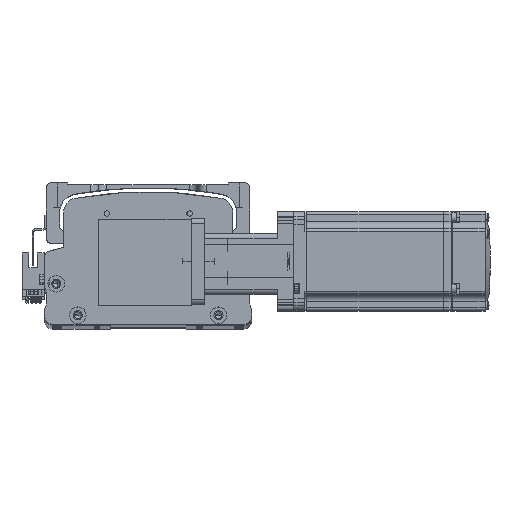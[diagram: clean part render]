
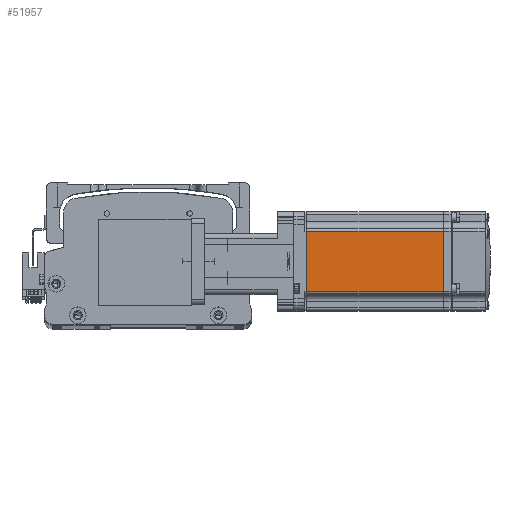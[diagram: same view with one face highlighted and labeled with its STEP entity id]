
A CAD part, top view. The second image highlights one B-rep face of the part: STEP entity #51957.
In plain terms, the highlighted planar face has unit normal (0, 0, 1) as drawn and (0, -1, 0) by its records, which use the part's own axes.
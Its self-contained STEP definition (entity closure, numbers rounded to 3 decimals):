
#14 = VECTOR ( 'NONE', #30017, 1000. ) ;
#5981 = DIRECTION ( 'NONE',  ( 0., 0., -1. ) ) ;
#6052 = AXIS2_PLACEMENT_3D ( 'NONE', #48439, #18703, #53483 ) ;
#7895 = VERTEX_POINT ( 'NONE', #9179 ) ;
#7956 = VECTOR ( 'NONE', #58835, 1000. ) ;
#9179 = CARTESIAN_POINT ( 'NONE',  ( -7.75, -30., 18. ) ) ;
#10829 = CARTESIAN_POINT ( 'NONE',  ( -6.5, -30., -18. ) ) ;
#11224 = ORIENTED_EDGE ( 'NONE', *, *, #49539, .T. ) ;
#12552 = VECTOR ( 'NONE', #5981, 1000. ) ;
#13191 = LINE ( 'NONE', #39778, #14 ) ;
#15144 = VERTEX_POINT ( 'NONE', #45397 ) ;
#15764 = LINE ( 'NONE', #10829, #27422 ) ;
#18703 = DIRECTION ( 'NONE',  ( 0., -1., 0. ) ) ;
#20249 = EDGE_CURVE ( 'NONE', #7895, #33287, #25698, .T. ) ;
#24044 = CARTESIAN_POINT ( 'NONE',  ( -90.45, -30., 0. ) ) ;
#25698 = LINE ( 'NONE', #50468, #12552 ) ;
#27422 = VECTOR ( 'NONE', #40510, 1000. ) ;
#27567 = FACE_OUTER_BOUND ( 'NONE', #38118, .T. ) ;
#30017 = DIRECTION ( 'NONE',  ( -1., 0., 0. ) ) ;
#31184 = ORIENTED_EDGE ( 'NONE', *, *, #47015, .T. ) ;
#33287 = VERTEX_POINT ( 'NONE', #51425 ) ;
#34276 = LINE ( 'NONE', #24044, #7956 ) ;
#38118 = EDGE_LOOP ( 'NONE', ( #51863, #11224, #31184, #40169 ) ) ;
#39778 = CARTESIAN_POINT ( 'NONE',  ( -6.5, -30., 18. ) ) ;
#40169 = ORIENTED_EDGE ( 'NONE', *, *, #56660, .F. ) ;
#40510 = DIRECTION ( 'NONE',  ( -1., 0., 0. ) ) ;
#45397 = CARTESIAN_POINT ( 'NONE',  ( -90.45, -30., -18. ) ) ;
#45802 = CARTESIAN_POINT ( 'NONE',  ( -90.45, -30., 18. ) ) ;
#47015 = EDGE_CURVE ( 'NONE', #58197, #15144, #34276, .T. ) ;
#48439 = CARTESIAN_POINT ( 'NONE',  ( -6.5, -30., -25. ) ) ;
#49539 = EDGE_CURVE ( 'NONE', #7895, #58197, #13191, .T. ) ;
#50468 = CARTESIAN_POINT ( 'NONE',  ( -7.75, -30., 0. ) ) ;
#51425 = CARTESIAN_POINT ( 'NONE',  ( -7.75, -30., -18. ) ) ;
#51863 = ORIENTED_EDGE ( 'NONE', *, *, #20249, .F. ) ;
#51957 = ADVANCED_FACE ( 'NONE', ( #27567 ), #58273, .T. ) ;
#53483 = DIRECTION ( 'NONE',  ( 0., 0., -1. ) ) ;
#56660 = EDGE_CURVE ( 'NONE', #33287, #15144, #15764, .T. ) ;
#58197 = VERTEX_POINT ( 'NONE', #45802 ) ;
#58273 = PLANE ( 'NONE',  #6052 ) ;
#58835 = DIRECTION ( 'NONE',  ( 0., 0., -1. ) ) ;
